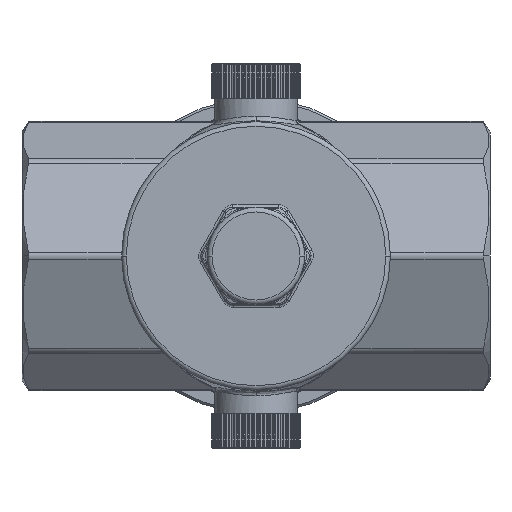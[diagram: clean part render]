
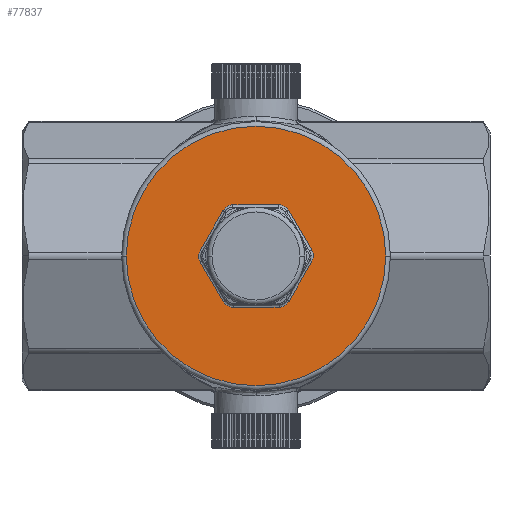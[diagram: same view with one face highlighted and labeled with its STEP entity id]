
A CAD part, front view. The second image highlights one B-rep face of the part: STEP entity #77837.
In plain terms, the highlighted planar face has unit normal (0, -1, 0).
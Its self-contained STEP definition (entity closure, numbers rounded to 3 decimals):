
#76199=CARTESIAN_POINT('',(0.,21.,0.));
#76200=DIRECTION('',(0.,-1.,0.));
#76201=DIRECTION('',(-1.,0.,0.));
#76202=AXIS2_PLACEMENT_3D('',#76199,#76200,#76201);
#76204=CARTESIAN_POINT('',(0.,21.,0.));
#76205=DIRECTION('',(0.,-1.,0.));
#76206=DIRECTION('',(1.,0.,0.));
#76207=AXIS2_PLACEMENT_3D('',#76204,#76205,#76206);
#76209=DIRECTION('',(1.,0.,0.004));
#76210=VECTOR('',#76209,9.873);
#76211=CARTESIAN_POINT('',(-4.979,21.,11.031));
#76212=LINE('',#76211,#76210);
#76213=CARTESIAN_POINT('',(-4.97,21.,8.531));
#76214=DIRECTION('',(0.,1.,0.));
#76215=DIRECTION('',(-0.868,0.,0.497));
#76216=AXIS2_PLACEMENT_3D('',#76213,#76214,#76215);
#76218=DIRECTION('',(0.497,0.,0.868));
#76219=VECTOR('',#76218,9.873);
#76220=CARTESIAN_POINT('',(-12.043,21.,1.203));
#76221=LINE('',#76220,#76219);
#76222=CARTESIAN_POINT('',(-9.873,21.,-0.038));
#76223=DIRECTION('',(0.,1.,0.));
#76224=DIRECTION('',(-0.864,0.,-0.503));
#76225=AXIS2_PLACEMENT_3D('',#76222,#76223,#76224);
#76227=DIRECTION('',(-0.503,0.,0.864));
#76228=VECTOR('',#76227,9.873);
#76229=CARTESIAN_POINT('',(-7.063,21.,-9.828));
#76230=LINE('',#76229,#76228);
#76231=CARTESIAN_POINT('',(-4.903,21.,-8.569));
#76232=DIRECTION('',(0.,1.,0.));
#76233=DIRECTION('',(0.004,0.,-1.));
#76234=AXIS2_PLACEMENT_3D('',#76231,#76232,#76233);
#76236=DIRECTION('',(-1.,0.,-0.004));
#76237=VECTOR('',#76236,9.873);
#76238=CARTESIAN_POINT('',(4.979,21.,-11.031));
#76239=LINE('',#76238,#76237);
#76240=CARTESIAN_POINT('',(4.97,21.,-8.531));
#76241=DIRECTION('',(0.,1.,0.));
#76242=DIRECTION('',(0.868,0.,-0.497));
#76243=AXIS2_PLACEMENT_3D('',#76240,#76241,#76242);
#76245=DIRECTION('',(-0.497,0.,-0.868));
#76246=VECTOR('',#76245,9.873);
#76247=CARTESIAN_POINT('',(12.043,21.,-1.203));
#76248=LINE('',#76247,#76246);
#76249=CARTESIAN_POINT('',(9.873,21.,0.038));
#76250=DIRECTION('',(0.,1.,0.));
#76251=DIRECTION('',(0.864,0.,0.503));
#76252=AXIS2_PLACEMENT_3D('',#76249,#76250,#76251);
#76254=DIRECTION('',(0.503,0.,-0.864));
#76255=VECTOR('',#76254,9.873);
#76256=CARTESIAN_POINT('',(7.063,21.,9.828));
#76257=LINE('',#76256,#76255);
#76258=CARTESIAN_POINT('',(4.903,21.,8.569));
#76259=DIRECTION('',(0.,1.,0.));
#76260=DIRECTION('',(-0.004,0.,1.));
#76261=AXIS2_PLACEMENT_3D('',#76258,#76259,#76260);
#77435=CARTESIAN_POINT('',(-28.,21.,0.));
#77436=CARTESIAN_POINT('',(28.,21.,0.));
#77437=VERTEX_POINT('',#77435);
#77438=VERTEX_POINT('',#77436);
#77487=CARTESIAN_POINT('',(-4.979,21.,11.031));
#77488=CARTESIAN_POINT('',(4.893,21.,11.069));
#77489=VERTEX_POINT('',#77487);
#77490=VERTEX_POINT('',#77488);
#77493=CARTESIAN_POINT('',(7.063,21.,9.828));
#77494=VERTEX_POINT('',#77493);
#77497=CARTESIAN_POINT('',(12.033,21.,1.297));
#77498=VERTEX_POINT('',#77497);
#77501=CARTESIAN_POINT('',(12.043,21.,-1.203));
#77502=VERTEX_POINT('',#77501);
#77505=CARTESIAN_POINT('',(7.139,21.,-9.772));
#77506=VERTEX_POINT('',#77505);
#77509=CARTESIAN_POINT('',(4.979,21.,-11.031));
#77510=VERTEX_POINT('',#77509);
#77513=CARTESIAN_POINT('',(-4.893,21.,-11.069));
#77514=VERTEX_POINT('',#77513);
#77517=CARTESIAN_POINT('',(-7.063,21.,-9.828));
#77518=VERTEX_POINT('',#77517);
#77521=CARTESIAN_POINT('',(-12.033,21.,-1.297));
#77522=VERTEX_POINT('',#77521);
#77525=CARTESIAN_POINT('',(-12.043,21.,1.203));
#77526=VERTEX_POINT('',#77525);
#77529=CARTESIAN_POINT('',(-7.139,21.,9.772));
#77530=VERTEX_POINT('',#77529);
#77801=CARTESIAN_POINT('',(0.,21.,0.));
#77802=DIRECTION('',(0.,1.,0.));
#77803=DIRECTION('',(1.,0.,0.));
#77804=AXIS2_PLACEMENT_3D('',#77801,#77802,#77803);
#77805=PLANE('',#77804);
#77806=ORIENTED_EDGE('',*,*,#77791,.F.);
#77808=ORIENTED_EDGE('',*,*,#77807,.F.);
#77809=EDGE_LOOP('',(#77806,#77808));
#77810=FACE_OUTER_BOUND('',#77809,.F.);
#77812=ORIENTED_EDGE('',*,*,#77811,.F.);
#77814=ORIENTED_EDGE('',*,*,#77813,.F.);
#77816=ORIENTED_EDGE('',*,*,#77815,.F.);
#77818=ORIENTED_EDGE('',*,*,#77817,.F.);
#77820=ORIENTED_EDGE('',*,*,#77819,.F.);
#77822=ORIENTED_EDGE('',*,*,#77821,.F.);
#77824=ORIENTED_EDGE('',*,*,#77823,.F.);
#77826=ORIENTED_EDGE('',*,*,#77825,.F.);
#77828=ORIENTED_EDGE('',*,*,#77827,.F.);
#77830=ORIENTED_EDGE('',*,*,#77829,.F.);
#77832=ORIENTED_EDGE('',*,*,#77831,.F.);
#77834=ORIENTED_EDGE('',*,*,#77833,.F.);
#77835=EDGE_LOOP('',(#77812,#77814,#77816,#77818,#77820,#77822,#77824,#77826,
#77828,#77830,#77832,#77834));
#77836=FACE_BOUND('',#77835,.F.);
#77837=ADVANCED_FACE('',(#77810,#77836),#77805,.F.);
#76203=CIRCLE('',#76202,28.);
#76208=CIRCLE('',#76207,28.);
#76217=CIRCLE('',#76216,2.5);
#76226=CIRCLE('',#76225,2.5);
#76235=CIRCLE('',#76234,2.5);
#76244=CIRCLE('',#76243,2.5);
#76253=CIRCLE('',#76252,2.5);
#76262=CIRCLE('',#76261,2.5);
#77791=EDGE_CURVE('',#77437,#77438,#76203,.T.);
#77807=EDGE_CURVE('',#77438,#77437,#76208,.T.);
#77811=EDGE_CURVE('',#77489,#77490,#76212,.T.);
#77813=EDGE_CURVE('',#77530,#77489,#76217,.T.);
#77815=EDGE_CURVE('',#77526,#77530,#76221,.T.);
#77817=EDGE_CURVE('',#77522,#77526,#76226,.T.);
#77819=EDGE_CURVE('',#77518,#77522,#76230,.T.);
#77821=EDGE_CURVE('',#77514,#77518,#76235,.T.);
#77823=EDGE_CURVE('',#77510,#77514,#76239,.T.);
#77825=EDGE_CURVE('',#77506,#77510,#76244,.T.);
#77827=EDGE_CURVE('',#77502,#77506,#76248,.T.);
#77829=EDGE_CURVE('',#77498,#77502,#76253,.T.);
#77831=EDGE_CURVE('',#77494,#77498,#76257,.T.);
#77833=EDGE_CURVE('',#77490,#77494,#76262,.T.);
